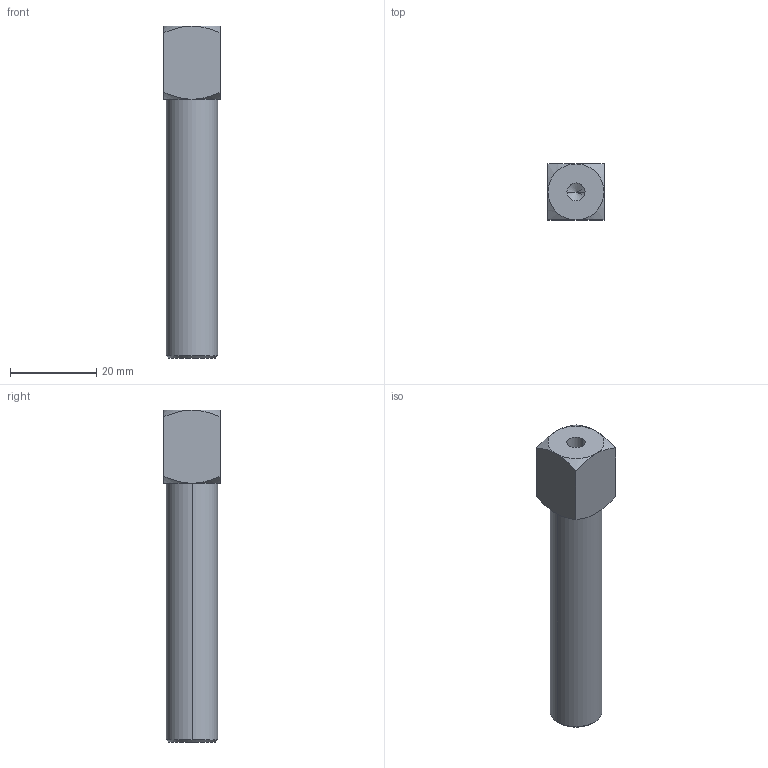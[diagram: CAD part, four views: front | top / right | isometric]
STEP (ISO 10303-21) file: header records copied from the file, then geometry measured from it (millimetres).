
FILE_DESCRIPTION (( 'STEP AP214' ), '1' );
FILE_NAME ('SVE-M51260.STEP', '2023-01-29T06:05:33', ( 'Windows User' ), ( 'P R C' ), 'SwSTEP 2.0', 'SolidWorks 2019', '' );
FILE_SCHEMA (( 'AUTOMOTIVE_DESIGN' ));
Length unit declared in the file: millimetre
Products named in the file (1): SVE-M51260
Bounding box: 13 x 13 x 77 mm (x, y, z)
Volume: 7809.2 mm3; surface area: 4668.4 mm2
Topology: 1 solids, 1 shells, 33 faces, 77 edges, 44 vertices
Faces by surface type: cone 18, cylinder 8, plane 7
Entity records: 1021 total; most frequent: CARTESIAN_POINT 277, DIRECTION 149, ORIENTED_EDGE 146, EDGE_CURVE 73, AXIS2_PLACEMENT_3D 64, VERTEX_POINT 44, EDGE_LOOP 37, FACE_OUTER_BOUND 33
